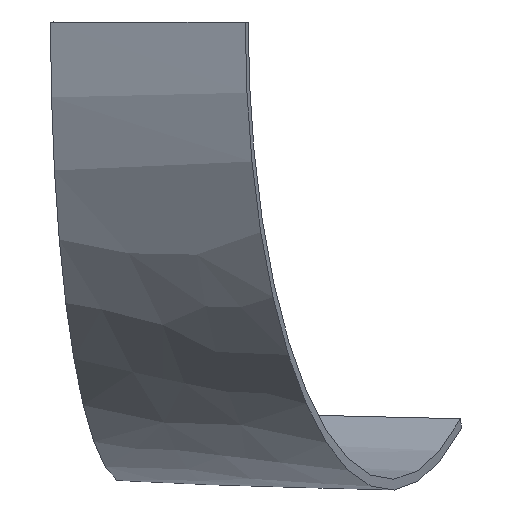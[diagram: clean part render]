
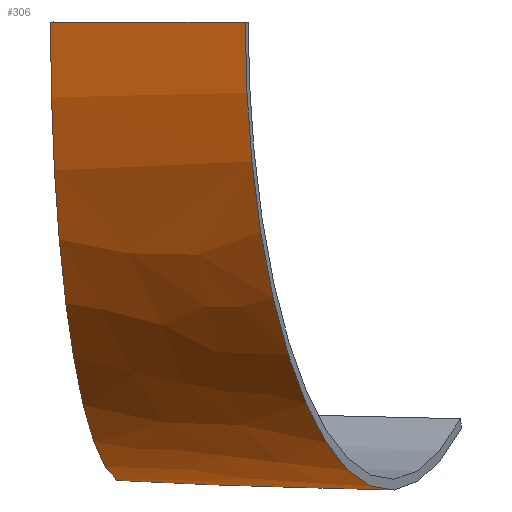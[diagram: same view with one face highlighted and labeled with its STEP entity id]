
A CAD part, left-side view. The second image highlights one B-rep face of the part: STEP entity #306.
In plain terms, the highlighted free-form (B-spline) face has degree [3, 3] with [13, 4] control points.
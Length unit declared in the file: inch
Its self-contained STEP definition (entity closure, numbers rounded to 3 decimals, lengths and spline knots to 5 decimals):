
#1 = CARTESIAN_POINT ( 'NONE',  ( 112.97629, -17.85933, -31.76931 ) ) ;
#3 = CARTESIAN_POINT ( 'NONE',  ( 87.17411, -13.71706, -5.68391 ) ) ;
#4 = CARTESIAN_POINT ( 'NONE',  ( 110.11959, -29.4879, -32.14474 ) ) ;
#9 = CARTESIAN_POINT ( 'NONE',  ( 88.63389, -13.95151, -11.13742 ) ) ;
#12 = CARTESIAN_POINT ( 'NONE',  ( 83.35794, -27.11481, -0.12796 ) ) ;
#14 = ORIENTED_EDGE ( 'NONE', *, *, #324, .T. ) ;
#20 = VERTEX_POINT ( 'NONE', #303 ) ;
#22 = CARTESIAN_POINT ( 'NONE',  ( 84.62263, -22.64771, -0.12798 ) ) ;
#23 = B_SPLINE_CURVE_WITH_KNOTS ( 'NONE', 3,
 ( #113, #60, #137, #117, #159, #115, #184, #231, #210, #12 ),
 .UNSPECIFIED., .F., .F.,
 ( 4, 2, 2, 2, 4 ),
 ( 0., 0.25, 0.5, 0.75, 1. ),
 .UNSPECIFIED. ) ;
#27 = CARTESIAN_POINT ( 'NONE',  ( 132.543, -28.16601, -27.74902 ) ) ;
#29 = CARTESIAN_POINT ( 'NONE',  ( 88.8027, -23.76935, -16.13271 ) ) ;
#30 = CARTESIAN_POINT ( 'NONE',  ( 130.97953, -35.08209, -27.91095 ) ) ;
#31 = CARTESIAN_POINT ( 'NONE',  ( 87.17411, -13.71706, -5.68391 ) ) ;
#35 = CARTESIAN_POINT ( 'NONE',  ( 112.97629, -17.85933, -31.76931 ) ) ;
#39 = B_SPLINE_SURFACE_WITH_KNOTS ( 'NONE', 3, 3, ( 
 ( #59, #129, #22, #199 ),
 ( #3, #109, #252, #300 ),
 ( #271, #197, #224, #126 ),
 ( #131, #83, #29, #225 ),
 ( #179, #78, #196, #325 ),
 ( #221, #299, #201, #302 ),
 ( #180, #154, #278, #130 ),
 ( #227, #178, #52, #274 ),
 ( #1, #62, #4, #286 ),
 ( #204, #183, #64, #230 ),
 ( #88, #158, #233, #112 ),
 ( #282, #254, #234, #186 ),
 ( #138, #164, #229, #284 ) ),
 .UNSPECIFIED., .F., .F., .F.,
 ( 4, 3, 3, 3, 4 ),
 ( 4, 4 ),
 ( 0., 0.25, 0.5, 0.75, 1. ),
 ( 0., 1. ),
 .UNSPECIFIED. ) ;
#43 = VERTEX_POINT ( 'NONE', #202 ) ;
#45 = VERTEX_POINT ( 'NONE', #127 ) ;
#51 = EDGE_LOOP ( 'NONE', ( #14, #145, #70, #318 ) ) ;
#52 = CARTESIAN_POINT ( 'NONE',  ( 104.79998, -28.06106, -30.65908 ) ) ;
#53 = CARTESIAN_POINT ( 'NONE',  ( 87.15201, -13.71352, -0.128 ) ) ;
#54 = B_SPLINE_CURVE_WITH_KNOTS ( 'NONE', 3,
 ( #257, #31, #9, #116, #110, #206, #35, #205, #134, #262 ),
 .UNSPECIFIED., .F., .F.,
 ( 4, 2, 2, 2, 4 ),
 ( 0., 0.25, 0.5, 0.75, 1. ),
 .UNSPECIFIED. ) ;
#59 = CARTESIAN_POINT ( 'NONE',  ( 87.15201, -13.71352, -0.128 ) ) ;
#60 = CARTESIAN_POINT ( 'NONE',  ( 124.7452, -40.48916, -30.88162 ) ) ;
#62 = CARTESIAN_POINT ( 'NONE',  ( 111.54795, -23.67362, -31.95703 ) ) ;
#64 = CARTESIAN_POINT ( 'NONE',  ( 115.53622, -30.94061, -32.15585 ) ) ;
#70 = ORIENTED_EDGE ( 'NONE', *, *, #118, .T. ) ;
#78 = CARTESIAN_POINT ( 'NONE',  ( 92.82887, -19.66686, -20.8734 ) ) ;
#80 = B_SPLINE_CURVE_WITH_KNOTS ( 'NONE', 3,
 ( #228, #150, #103, #53 ),
 .UNSPECIFIED., .F., .F.,
 ( 4, 4 ),
 ( 0., 1. ),
 .UNSPECIFIED. ) ;
#83 = CARTESIAN_POINT ( 'NONE',  ( 90.09428, -19.08137, -16.03831 ) ) ;
#88 = CARTESIAN_POINT ( 'NONE',  ( 123.94954, -19.62028, -31.79238 ) ) ;
#100 = VERTEX_POINT ( 'NONE', #135 ) ;
#103 = CARTESIAN_POINT ( 'NONE',  ( 85.88732, -18.18061, -0.12799 ) ) ;
#109 = CARTESIAN_POINT ( 'NONE',  ( 85.90915, -18.18527, -5.7171 ) ) ;
#110 = CARTESIAN_POINT ( 'NONE',  ( 98.08635, -15.46925, -24.7427 ) ) ;
#112 = CARTESIAN_POINT ( 'NONE',  ( 119.45447, -38.77983, -32.35426 ) ) ;
#113 = CARTESIAN_POINT ( 'NONE',  ( 129.41605, -41.99817, -28.07288 ) ) ;
#115 = CARTESIAN_POINT ( 'NONE',  ( 94.08469, -30.58204, -25.18265 ) ) ;
#116 = CARTESIAN_POINT ( 'NONE',  ( 94.13781, -14.83529, -20.75037 ) ) ;
#117 = CARTESIAN_POINT ( 'NONE',  ( 108.69121, -35.30217, -32.33244 ) ) ;
#118 = EDGE_CURVE ( 'NONE', #45, #100, #23, .T. ) ;
#126 = CARTESIAN_POINT ( 'NONE',  ( 84.8113, -27.58465, -11.33476 ) ) ;
#127 = CARTESIAN_POINT ( 'NONE',  ( 129.41605, -41.99817, -28.07288 ) ) ;
#129 = CARTESIAN_POINT ( 'NONE',  ( 85.88732, -18.18061, -0.12799 ) ) ;
#130 = CARTESIAN_POINT ( 'NONE',  ( 98.74528, -32.08818, -28.0105 ) ) ;
#131 = CARTESIAN_POINT ( 'NONE',  ( 91.38585, -14.3934, -15.9439 ) ) ;
#134 = CARTESIAN_POINT ( 'NONE',  ( 129.34386, -20.48583, -30.34624 ) ) ;
#135 = CARTESIAN_POINT ( 'NONE',  ( 83.35794, -27.11481, -0.12796 ) ) ;
#137 = CARTESIAN_POINT ( 'NONE',  ( 119.45447, -38.77983, -32.35426 ) ) ;
#138 = CARTESIAN_POINT ( 'NONE',  ( 134.10645, -21.24992, -27.58711 ) ) ;
#145 = ORIENTED_EDGE ( 'NONE', *, *, #291, .T. ) ;
#146 = CARTESIAN_POINT ( 'NONE',  ( 129.41605, -41.99817, -28.07288 ) ) ;
#150 = CARTESIAN_POINT ( 'NONE',  ( 84.62263, -22.64771, -0.12798 ) ) ;
#154 = CARTESIAN_POINT ( 'NONE',  ( 101.47328, -21.51732, -27.68458 ) ) ;
#158 = CARTESIAN_POINT ( 'NONE',  ( 122.4512, -26.0068, -31.97967 ) ) ;
#159 = CARTESIAN_POINT ( 'NONE',  ( 103.40586, -33.59432, -30.83835 ) ) ;
#164 = CARTESIAN_POINT ( 'NONE',  ( 132.543, -28.16601, -27.74902 ) ) ;
#178 = CARTESIAN_POINT ( 'NONE',  ( 106.19409, -22.5278, -30.4798 ) ) ;
#179 = CARTESIAN_POINT ( 'NONE',  ( 94.13781, -14.83529, -20.75037 ) ) ;
#180 = CARTESIAN_POINT ( 'NONE',  ( 102.83726, -16.23189, -27.52161 ) ) ;
#182 = CARTESIAN_POINT ( 'NONE',  ( 134.10645, -21.24992, -27.58711 ) ) ;
#183 = CARTESIAN_POINT ( 'NONE',  ( 116.99958, -24.84021, -31.96835 ) ) ;
#184 = CARTESIAN_POINT ( 'NONE',  ( 90.21095, -29.33, -21.11942 ) ) ;
#186 = CARTESIAN_POINT ( 'NONE',  ( 124.7452, -40.48916, -30.88162 ) ) ;
#196 = CARTESIAN_POINT ( 'NONE',  ( 91.51991, -24.49843, -20.99642 ) ) ;
#197 = CARTESIAN_POINT ( 'NONE',  ( 87.3597, -18.49589, -11.20321 ) ) ;
#199 = CARTESIAN_POINT ( 'NONE',  ( 83.35794, -27.11481, -0.12796 ) ) ;
#201 = CARTESIAN_POINT ( 'NONE',  ( 95.41859, -25.54445, -25.03602 ) ) ;
#202 = CARTESIAN_POINT ( 'NONE',  ( 134.10645, -21.24992, -27.58711 ) ) ;
#204 = CARTESIAN_POINT ( 'NONE',  ( 118.46291, -18.73981, -31.78085 ) ) ;
#205 = CARTESIAN_POINT ( 'NONE',  ( 123.94954, -19.62028, -31.79238 ) ) ;
#206 = CARTESIAN_POINT ( 'NONE',  ( 107.58818, -16.99453, -30.30051 ) ) ;
#210 = CARTESIAN_POINT ( 'NONE',  ( 83.37923, -27.12169, -5.78345 ) ) ;
#221 = CARTESIAN_POINT ( 'NONE',  ( 98.08635, -15.46925, -24.7427 ) ) ;
#224 = CARTESIAN_POINT ( 'NONE',  ( 86.0855, -23.04027, -11.26899 ) ) ;
#225 = CARTESIAN_POINT ( 'NONE',  ( 87.51112, -28.45733, -16.22709 ) ) ;
#227 = CARTESIAN_POINT ( 'NONE',  ( 107.58818, -16.99453, -30.30051 ) ) ;
#228 = CARTESIAN_POINT ( 'NONE',  ( 83.35794, -27.11481, -0.12796 ) ) ;
#229 = CARTESIAN_POINT ( 'NONE',  ( 130.97953, -35.08209, -27.91095 ) ) ;
#230 = CARTESIAN_POINT ( 'NONE',  ( 114.07284, -37.041, -32.34335 ) ) ;
#231 = CARTESIAN_POINT ( 'NONE',  ( 84.8113, -27.58465, -11.33476 ) ) ;
#233 = CARTESIAN_POINT ( 'NONE',  ( 120.95284, -32.39332, -32.16697 ) ) ;
#234 = CARTESIAN_POINT ( 'NONE',  ( 126.2781, -33.82138, -30.70315 ) ) ;
#239 = EDGE_CURVE ( 'NONE', #100, #20, #80, .T. ) ;
#244 = FACE_OUTER_BOUND ( 'NONE', #51, .T. ) ;
#252 = CARTESIAN_POINT ( 'NONE',  ( 84.64419, -22.65348, -5.75028 ) ) ;
#254 = CARTESIAN_POINT ( 'NONE',  ( 127.81099, -27.15361, -30.52469 ) ) ;
#256 = B_SPLINE_CURVE_WITH_KNOTS ( 'NONE', 3,
 ( #182, #27, #30, #146 ),
 .UNSPECIFIED., .F., .F.,
 ( 4, 4 ),
 ( 0., 1. ),
 .UNSPECIFIED. ) ;
#257 = CARTESIAN_POINT ( 'NONE',  ( 87.15201, -13.71352, -0.128 ) ) ;
#262 = CARTESIAN_POINT ( 'NONE',  ( 134.10645, -21.24992, -27.58711 ) ) ;
#271 = CARTESIAN_POINT ( 'NONE',  ( 88.63389, -13.95151, -11.13742 ) ) ;
#274 = CARTESIAN_POINT ( 'NONE',  ( 103.40586, -33.59432, -30.83835 ) ) ;
#278 = CARTESIAN_POINT ( 'NONE',  ( 100.10929, -26.80275, -27.84755 ) ) ;
#282 = CARTESIAN_POINT ( 'NONE',  ( 129.34386, -20.48583, -30.34624 ) ) ;
#284 = CARTESIAN_POINT ( 'NONE',  ( 129.41605, -41.99817, -28.07288 ) ) ;
#286 = CARTESIAN_POINT ( 'NONE',  ( 108.69121, -35.30217, -32.33244 ) ) ;
#291 = EDGE_CURVE ( 'NONE', #43, #45, #256, .T. ) ;
#299 = CARTESIAN_POINT ( 'NONE',  ( 96.75248, -20.50685, -24.88937 ) ) ;
#300 = CARTESIAN_POINT ( 'NONE',  ( 83.37923, -27.12169, -5.78345 ) ) ;
#302 = CARTESIAN_POINT ( 'NONE',  ( 94.08469, -30.58204, -25.18265 ) ) ;
#303 = CARTESIAN_POINT ( 'NONE',  ( 87.15201, -13.71352, -0.128 ) ) ;
#306 = ADVANCED_FACE ( 'NONE', ( #244 ), #39, .T. ) ;
#318 = ORIENTED_EDGE ( 'NONE', *, *, #239, .T. ) ;
#324 = EDGE_CURVE ( 'NONE', #20, #43, #54, .T. ) ;
#325 = CARTESIAN_POINT ( 'NONE',  ( 90.21095, -29.33, -21.11942 ) ) ;
